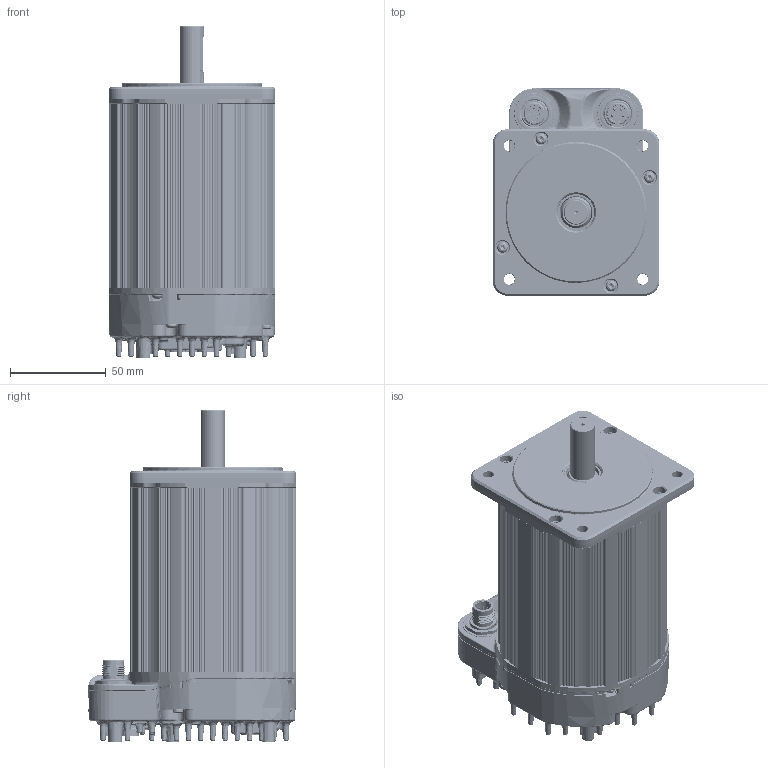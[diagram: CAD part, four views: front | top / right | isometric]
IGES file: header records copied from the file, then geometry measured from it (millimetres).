
Start section: SolidWorks IGES file using analytic representation for surfaces
Global section: file name: C:\TeknicPDM\EtherPath CPM-S\EtherPath CPM-S Customer Files\CPM-S Customer Models\CPMS 344x.IGS; native system: SolidWorks 2020; preprocessor: SolidWorks 2020; author: mike_berezny; date: 230808.153546; units: inch
Bounding box: 86.87 x 108.59 x 173.16 mm (x, y, z)
Surface area: 201080.4 mm2 (no closed solid volume)
Topology: 0 solids, 0 shells, 10843 faces, 111154 edges, 110564 vertices
Faces by surface type: bspline 5452, revolution 5391
